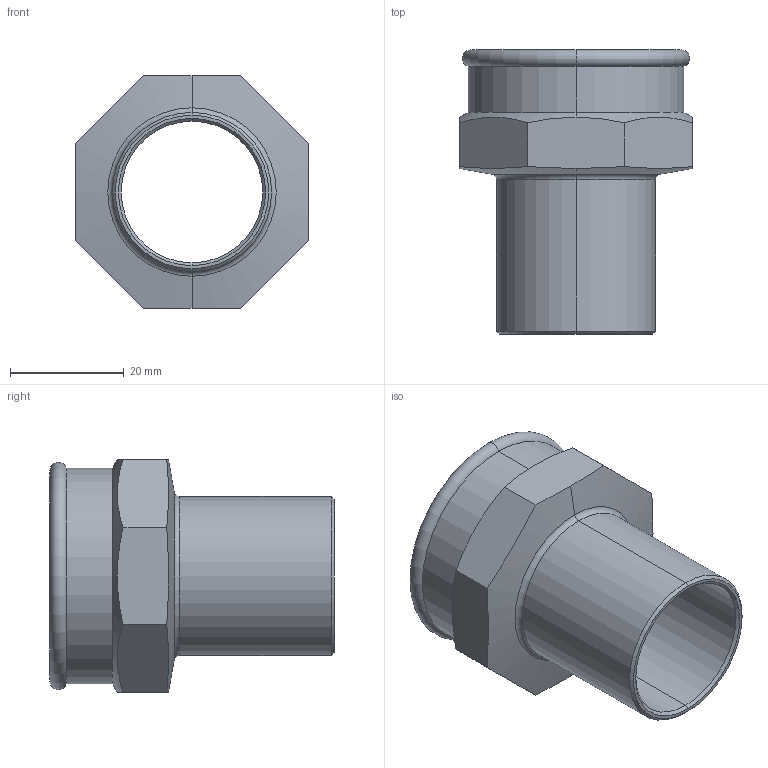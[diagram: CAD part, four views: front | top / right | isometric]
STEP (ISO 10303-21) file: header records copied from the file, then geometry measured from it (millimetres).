
FILE_DESCRIPTION (( 'STEP AP203' ), '1' );
FILE_NAME ('SP4281G Ø28 1.STEP', '2017-04-26T09:17:10', ( '' ), ( '' ), 'SwSTEP 2.0', 'SolidWorks 2016', '' );
FILE_SCHEMA (( 'CONFIG_CONTROL_DESIGN' ));
Length unit declared in the file: millimetre
Products named in the file (1): SP4281G ﾘ28 1
Bounding box: 41 x 50 x 41 mm (x, y, z)
Volume: 15581.4 mm3; surface area: 10938.6 mm2
Topology: 1 solids, 1 shells, 34 faces, 78 edges, 46 vertices
Faces by surface type: cone 12, plane 10, cylinder 8, torus 4
Entity records: 1125 total; most frequent: CARTESIAN_POINT 295, DIRECTION 158, ORIENTED_EDGE 156, EDGE_CURVE 78, AXIS2_PLACEMENT_3D 65, VERTEX_POINT 46, EDGE_LOOP 36, FACE_OUTER_BOUND 34
